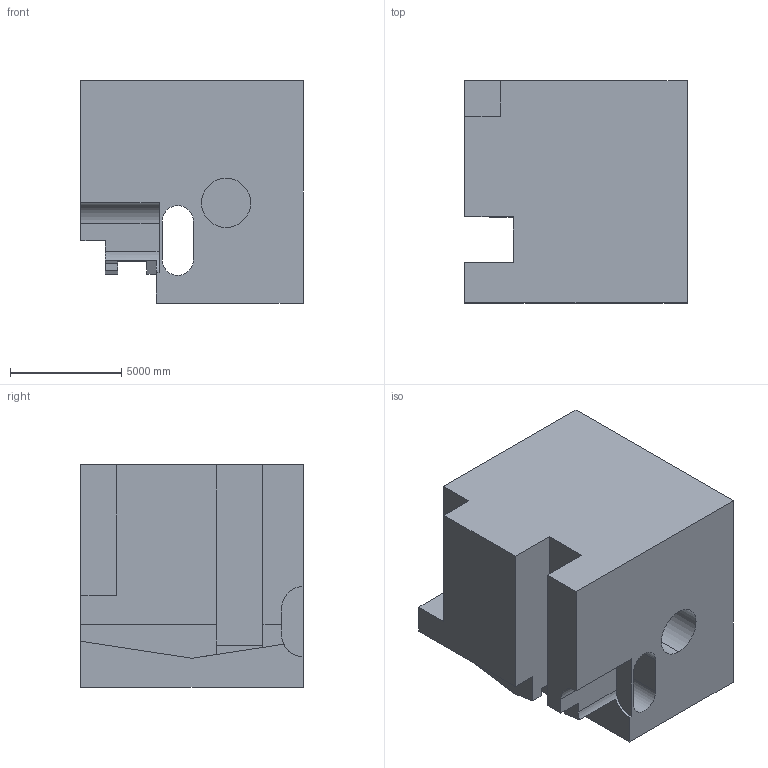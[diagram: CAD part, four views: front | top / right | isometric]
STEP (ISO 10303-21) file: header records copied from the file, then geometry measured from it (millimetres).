
FILE_DESCRIPTION (( 'STEP AP203' ), '1' );
FILE_NAME ('718.STEP', '2022-07-29T12:43:56', ( 'user' ), ( '' ), 'SwSTEP 2.0', 'SolidWorks 2021', '' );
FILE_SCHEMA (( 'CONFIG_CONTROL_DESIGN' ));
Length unit declared in the file: centimetre
Products named in the file (1): 718
Bounding box: 10000 x 10000 x 10000 mm (x, y, z)
Volume: 815358071707.1 mm3; surface area: 710433212.8 mm2
Topology: 1 solids, 1 shells, 37 faces, 102 edges, 68 vertices
Faces by surface type: plane 30, cylinder 7
Entity records: 1252 total; most frequent: CARTESIAN_POINT 208, ORIENTED_EDGE 204, DIRECTION 193, EDGE_CURVE 102, VECTOR 87, LINE 87, VERTEX_POINT 68, AXIS2_PLACEMENT_3D 53
